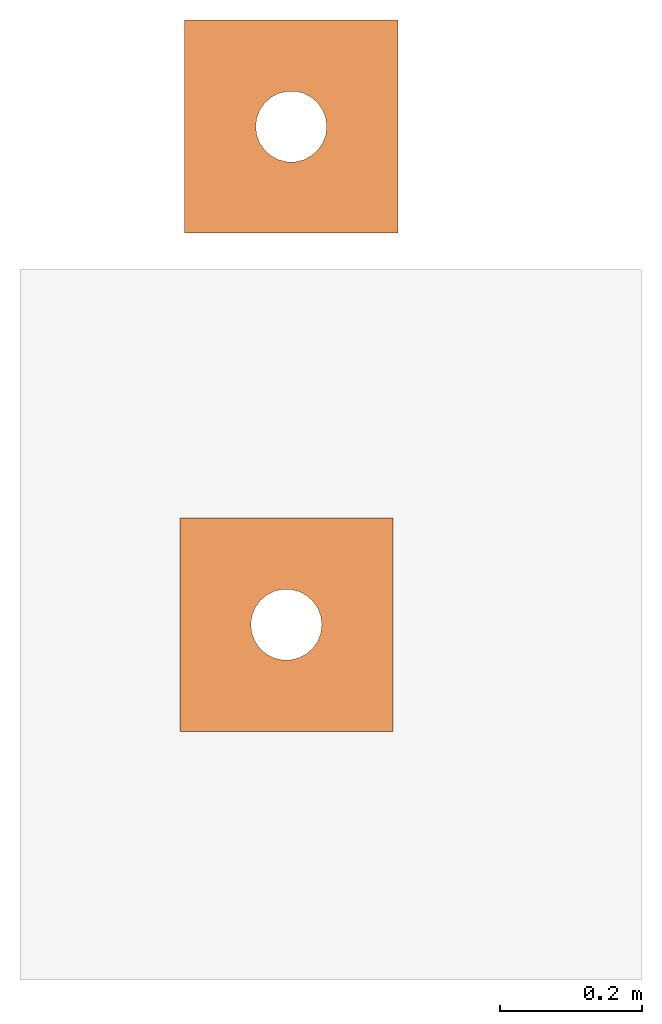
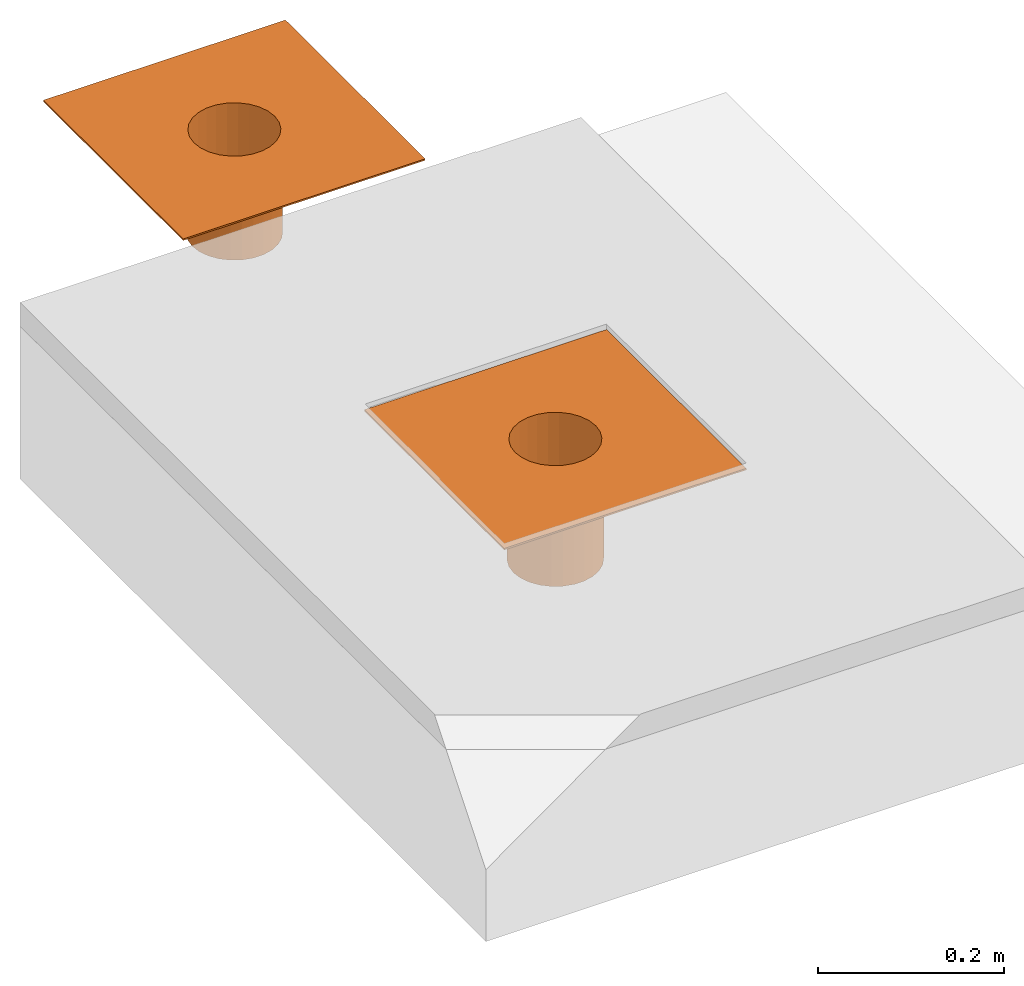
# One storey, part 2 of 3: 2 proxies.
"""IFC2X3 building model written with IfcOpenShell, lengths in metres."""

from ifc_helpers import new_model, entity, si_unit, converted_unit, derived_unit, direction, frame, frame_2d, origin, place, context, subcontext, project, spatial, polyline, circle_curve, parameter, trimmed, segment, composite_curve, hollow_circle, outline, extrude, source, transform, mapped, material, type_object, type_shapes, element, save


model = new_model("IFC2X3")

# Units and contexts
model_context = context("Model", 3, precision=1e-05, world=origin(), true_north=direction((6.123031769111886e-17, 1.0)))
body_context = subcontext(model_context, "Body", "Model", "MODEL_VIEW")
ifc_project = project(units=[si_unit("LENGTHUNIT", "METRE"), si_unit("AREAUNIT", "SQUARE_METRE"), si_unit("VOLUMEUNIT", "CUBIC_METRE"), converted_unit("PLANEANGLEUNIT", "DEGREE", entity("IfcRatioMeasure", 0.017453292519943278), si_unit("PLANEANGLEUNIT", "RADIAN"), dimensions=[0, 0, 0, 0, 0, 0, 0]), si_unit("MASSUNIT", "GRAM", prefix="KILO"), derived_unit("MASSDENSITYUNIT", [(si_unit("MASSUNIT", "GRAM", prefix="KILO"), 1), (si_unit("LENGTHUNIT", "METRE"), -3)]), derived_unit("IONCONCENTRATIONUNIT", [(si_unit("MASSUNIT", "GRAM", prefix="KILO"), 1), (si_unit("LENGTHUNIT", "METRE"), -3)]), derived_unit("MOMENTOFINERTIAUNIT", [(si_unit("LENGTHUNIT", "METRE"), 4)]), si_unit("TIMEUNIT", "SECOND"), si_unit("FREQUENCYUNIT", "HERTZ"), si_unit("THERMODYNAMICTEMPERATUREUNIT", "DEGREE_CELSIUS"), derived_unit("THERMALTRANSMITTANCEUNIT", [(si_unit("MASSUNIT", "GRAM", prefix="KILO"), 1), (si_unit("THERMODYNAMICTEMPERATUREUNIT", "KELVIN"), -1), (si_unit("TIMEUNIT", "SECOND"), -3)]), derived_unit("THERMALCONDUCTANCEUNIT", [(si_unit("MASSUNIT", "GRAM", prefix="KILO"), 1), (si_unit("THERMODYNAMICTEMPERATUREUNIT", "KELVIN"), -1), (si_unit("TIMEUNIT", "SECOND"), -3), (si_unit("LENGTHUNIT", "METRE"), 1)]), derived_unit("VOLUMETRICFLOWRATEUNIT", [(si_unit("LENGTHUNIT", "METRE"), 3), (si_unit("TIMEUNIT", "SECOND"), -1)]), derived_unit("MASSFLOWRATEUNIT", [(si_unit("MASSUNIT", "GRAM", prefix="KILO"), 1), (si_unit("TIMEUNIT", "SECOND"), -1)]), derived_unit("ROTATIONALFREQUENCYUNIT", [(si_unit("TIMEUNIT", "SECOND"), -1)]), si_unit("ELECTRICCURRENTUNIT", "AMPERE"), si_unit("ELECTRICVOLTAGEUNIT", "VOLT"), si_unit("POWERUNIT", "WATT"), si_unit("FORCEUNIT", "NEWTON", prefix="KILO"), si_unit("ILLUMINANCEUNIT", "LUX"), si_unit("LUMINOUSFLUXUNIT", "LUMEN"), si_unit("LUMINOUSINTENSITYUNIT", "CANDELA"), derived_unit("USERDEFINED", [(si_unit("MASSUNIT", "GRAM", prefix="KILO"), -1), (si_unit("LENGTHUNIT", "METRE"), -2), (si_unit("TIMEUNIT", "SECOND"), 3), (si_unit("LUMINOUSFLUXUNIT", "LUMEN"), 1)]), derived_unit("USERDEFINED", [(si_unit("MASSUNIT", "GRAM", prefix="KILO"), 1), (si_unit("TIMEUNIT", "SECOND"), -3), (si_unit("LENGTHUNIT", "METRE"), 3), (si_unit("ELECTRICCURRENTUNIT", "AMPERE"), -2)]), derived_unit("SOUNDPOWERUNIT", [(si_unit("MASSUNIT", "GRAM", prefix="KILO"), 1), (si_unit("TIMEUNIT", "SECOND"), -3), (si_unit("LENGTHUNIT", "METRE"), 2)]), derived_unit("SOUNDPRESSUREUNIT", [(si_unit("MASSUNIT", "GRAM", prefix="KILO"), 1), (si_unit("LENGTHUNIT", "METRE"), -1), (si_unit("TIMEUNIT", "SECOND"), -2)]), derived_unit("LINEARVELOCITYUNIT", [(si_unit("LENGTHUNIT", "METRE"), 1), (si_unit("TIMEUNIT", "SECOND"), -1)]), si_unit("PRESSUREUNIT", "PASCAL"), derived_unit("USERDEFINED", [(si_unit("MASSUNIT", "GRAM", prefix="KILO"), 1), (si_unit("LENGTHUNIT", "METRE"), -2), (si_unit("TIMEUNIT", "SECOND"), -2)]), derived_unit("LINEARFORCEUNIT", [(si_unit("MASSUNIT", "GRAM", prefix="KILO"), 1), (si_unit("TIMEUNIT", "SECOND"), -2)]), derived_unit("PLANARFORCEUNIT", [(si_unit("MASSUNIT", "GRAM", prefix="KILO"), 1), (si_unit("LENGTHUNIT", "METRE"), -1), (si_unit("TIMEUNIT", "SECOND"), -2)]), derived_unit("SPECIFICHEATCAPACITYUNIT", [(si_unit("THERMODYNAMICTEMPERATUREUNIT", "KELVIN"), -1), (si_unit("LENGTHUNIT", "METRE"), 2), (si_unit("TIMEUNIT", "SECOND"), -2)]), derived_unit("HEATINGVALUEUNIT", [(si_unit("LENGTHUNIT", "METRE"), 2), (si_unit("TIMEUNIT", "SECOND"), -2)]), derived_unit("VAPORPERMEABILITYUNIT", [(si_unit("LENGTHUNIT", "METRE"), -1), (si_unit("TIMEUNIT", "SECOND"), 1)]), derived_unit("DYNAMICVISCOSITYUNIT", [(si_unit("MASSUNIT", "GRAM", prefix="KILO"), 1), (si_unit("TIMEUNIT", "SECOND"), -1), (si_unit("LENGTHUNIT", "METRE"), -1)]), derived_unit("THERMALEXPANSIONCOEFFICIENTUNIT", [(si_unit("THERMODYNAMICTEMPERATUREUNIT", "KELVIN"), -1)]), derived_unit("MODULUSOFELASTICITYUNIT", [(si_unit("MASSUNIT", "GRAM", prefix="KILO"), 1), (si_unit("LENGTHUNIT", "METRE"), -1), (si_unit("TIMEUNIT", "SECOND"), -2)]), derived_unit("ISOTHERMALMOISTURECAPACITYUNIT", [(si_unit("LENGTHUNIT", "METRE"), 3), (si_unit("MASSUNIT", "GRAM", prefix="KILO"), -1)]), derived_unit("MOISTUREDIFFUSIVITYUNIT", [(si_unit("TIMEUNIT", "SECOND"), -1), (si_unit("LENGTHUNIT", "METRE"), 2)])], contexts=[model_context])

# Site, building, storey
site_placement = place(None, origin())
site = spatial("IfcSite", under=ifc_project, at=site_placement, Name="Default", CompositionType="ELEMENT")
building_placement = place(site_placement, origin())
building = spatial("IfcBuilding", under=site, at=building_placement, CompositionType="ELEMENT")
storey_placement = place(building_placement, frame((0.0, 0.0, -0.0025237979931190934)))
storey = spatial("IfcBuildingStorey", under=building, at=storey_placement, Name="ARQ Térreo", CompositionType="ELEMENT", Elevation=-0.0025237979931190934)

# Proxies
ifc_material = material(Name="_Viaboc")
building_element_proxy_type_1 = type_object("IfcBuildingElementProxyType", Name="Modelos genéricos 1:Modelos genéricos 1", PredefinedType="NOTDEFINED", material=ifc_material)
shared_shape_1 = source(origin(), body_context, "Body", "SweptSolid", [
    extrude(hollow_circle(Radius=0.052000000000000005, WallThickness=0.0020000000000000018, at=frame_2d((0.0, -5.414335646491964e-16), x_axis=(1.0, 0.0))), frame((0.9226644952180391, -1.2379912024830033, -0.1355237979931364)), (0.0, 0.0, 1.0), 0.1549299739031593),
    extrude(outline(polyline([(-0.15000000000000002, -0.15000000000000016), (0.15000000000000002, -0.15000000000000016), (0.15000000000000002, 0.15000000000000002), (-0.15000000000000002, 0.15000000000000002), (-0.15000000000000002, -0.15000000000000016)]), holes=[composite_curve([segment(trimmed(circle_curve(frame_2d((0.0, 0.0), x_axis=(-1.0, 0.0)), 0.05), [parameter(9.159997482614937e-13)], [parameter(180.0000000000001)], True, "PARAMETER"), False, "CONTINUOUS"), segment(trimmed(circle_curve(frame_2d((0.0, 0.0), x_axis=(-1.0, 0.0)), 0.05), [parameter(180.00000000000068)], [parameter(6.106664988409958e-13)], True, "PARAMETER"), False, "CONTINUOUS")], self_intersect=False)]), frame((0.9226644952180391, -1.2379912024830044, 0.01940617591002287), z_axis=(0.0, 0.0, 1.0), x_axis=(-1.0, 0.0, 0.0)), (0.0, 0.0, 1.0), 0.002073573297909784),
])
type_shapes(building_element_proxy_type_1, [shared_shape_1])
proxy_1_placement = place(storey_placement, frame((0.0, 0.0, 0.0025237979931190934)))
element("IfcBuildingElementProxy", 1, at=proxy_1_placement, inside=storey, type_object=building_element_proxy_type_1, material=ifc_material, Name="Modelos genéricos 1:Modelos genéricos 1", ObjectType="Modelos genéricos 1:Modelos genéricos 1", context=body_context, shape_type="MappedRepresentation", body=[
    mapped(shared_shape_1, transform((0.0, 0.0, 0.0), scale=1.0)),
])
building_element_proxy_type_2 = type_object("IfcBuildingElementProxyType", Name="Viaboc Ralo 100mm:Viaboc Ralo 100mm", PredefinedType="NOTDEFINED", material=ifc_material)
shared_shape_2 = source(origin(), body_context, "Body", "SweptSolid", [
    extrude(hollow_circle(Radius=0.052000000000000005, WallThickness=0.0020000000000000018, at=frame_2d((1.3964410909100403e-19, -5.574074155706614e-16), x_axis=(1.0, 0.0))), frame((0.0, 0.0, -0.133)), (0.0, 0.0, 1.0), 0.133),
    extrude(outline(polyline([(-0.14999999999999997, -0.14999999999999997), (0.14999999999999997, -0.14999999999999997), (0.14999999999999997, 0.14999999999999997), (-0.14999999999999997, 0.14999999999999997), (-0.14999999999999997, -0.14999999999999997)]), holes=[composite_curve([segment(trimmed(circle_curve(frame_2d((0.0, 0.0), x_axis=(-1.0, 0.0)), 0.05), [parameter(3.053332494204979e-13)], [parameter(180.0)], True, "PARAMETER"), False, "CONTINUOUS"), segment(trimmed(circle_curve(frame_2d((0.0, 0.0), x_axis=(-1.0, 0.0)), 0.05), [parameter(179.99999999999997)], [parameter(0.0)], True, "PARAMETER"), False, "CONTINUOUS")], self_intersect=False)]), frame((0.0, 0.0, 0.0), z_axis=(0.0, 0.0, 1.0), x_axis=(-1.0, 0.0, 0.0)), (0.0, 0.0, 1.0), 0.0019999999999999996),
])
type_shapes(building_element_proxy_type_2, [shared_shape_2])
proxy_2_placement = place(storey_placement, frame((0.9295519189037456, -0.5369387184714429, 0.0)))
element("IfcBuildingElementProxy", 2, at=proxy_2_placement, inside=storey, type_object=building_element_proxy_type_2, material=ifc_material, Name="Viaboc Ralo 100mm:Viaboc Ralo 100mm", ObjectType="Viaboc Ralo 100mm:Viaboc Ralo 100mm", context=body_context, shape_type="MappedRepresentation", body=[
    mapped(shared_shape_2, transform((0.0, 0.0, 0.0), scale=1.0)),
])

save(model, "model.ifc")
